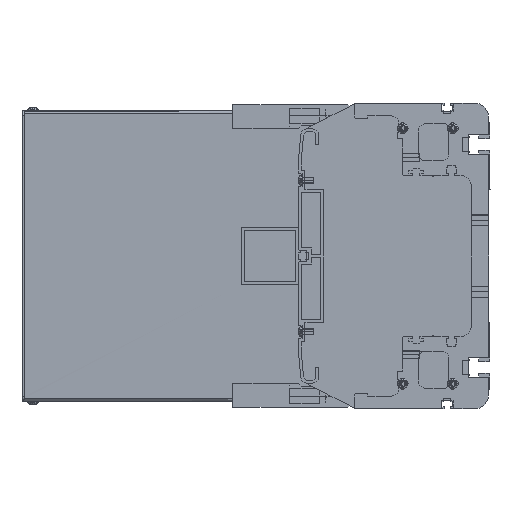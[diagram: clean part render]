
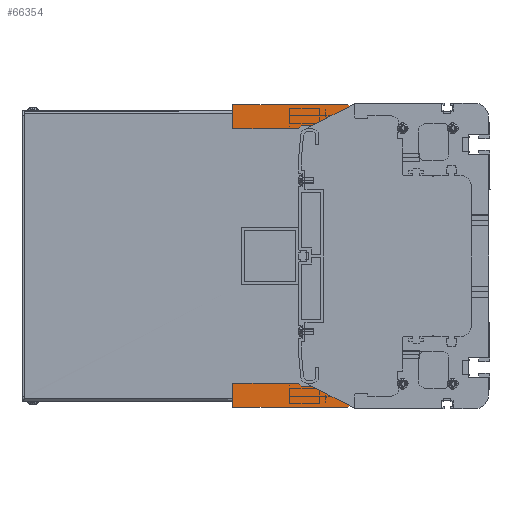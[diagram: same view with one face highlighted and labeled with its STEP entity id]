
A CAD part, left-side view. The second image highlights one B-rep face of the part: STEP entity #66354.
In plain terms, the highlighted planar face has unit normal (-1, 0, 0).
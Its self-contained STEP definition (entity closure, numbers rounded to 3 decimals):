
#61878=DIRECTION('',(0.,0.,1.));
#61879=VECTOR('',#61878,134.);
#61880=CARTESIAN_POINT('',(-434.5,111.,-67.));
#61881=LINE('',#61880,#61879);
#62143=DIRECTION('',(0.,1.,0.));
#62144=VECTOR('',#62143,46.);
#62145=CARTESIAN_POINT('',(-434.5,134.,-89.));
#62146=LINE('',#62145,#62144);
#62368=DIRECTION('',(0.,0.,1.));
#62369=VECTOR('',#62368,13.);
#62370=CARTESIAN_POINT('',(-434.5,114.5,-86.));
#62371=LINE('',#62370,#62369);
#62504=DIRECTION('',(0.,1.,0.));
#62505=VECTOR('',#62504,79.);
#62506=CARTESIAN_POINT('',(-434.5,101.,-106.));
#62507=LINE('',#62506,#62505);
#62508=DIRECTION('',(0.,-0.707,-0.707));
#62509=VECTOR('',#62508,2.828);
#62510=CARTESIAN_POINT('',(-434.5,134.,-89.));
#62511=LINE('',#62510,#62509);
#62512=CARTESIAN_POINT('',(-434.5,119.5,-86.));
#62513=DIRECTION('',(-1.,0.,0.));
#62514=DIRECTION('',(0.,0.,-1.));
#62515=AXIS2_PLACEMENT_3D('',#62512,#62513,#62514);
#62517=CARTESIAN_POINT('',(-434.5,119.5,86.));
#62518=DIRECTION('',(-1.,0.,0.));
#62519=DIRECTION('',(0.,-1.,0.));
#62520=AXIS2_PLACEMENT_3D('',#62517,#62518,#62519);
#62522=DIRECTION('',(0.,0.707,-0.707));
#62523=VECTOR('',#62522,2.828);
#62524=CARTESIAN_POINT('',(-434.5,132.,91.));
#62525=LINE('',#62524,#62523);
#62526=DIRECTION('',(0.,0.,-1.));
#62527=VECTOR('',#62526,17.);
#62528=CARTESIAN_POINT('',(-434.5,180.,106.));
#62529=LINE('',#62528,#62527);
#62530=DIRECTION('',(0.,-1.,0.));
#62531=VECTOR('',#62530,79.);
#62532=CARTESIAN_POINT('',(-434.5,180.,106.));
#62533=LINE('',#62532,#62531);
#62534=CARTESIAN_POINT('',(-434.5,101.,102.));
#62535=DIRECTION('',(1.,0.,0.));
#62536=DIRECTION('',(0.,0.,1.));
#62537=AXIS2_PLACEMENT_3D('',#62534,#62535,#62536);
#62539=CARTESIAN_POINT('',(-434.5,101.,-102.));
#62540=DIRECTION('',(1.,0.,0.));
#62541=DIRECTION('',(0.,-1.,0.));
#62542=AXIS2_PLACEMENT_3D('',#62539,#62540,#62541);
#62604=DIRECTION('',(0.,0.,1.));
#62605=VECTOR('',#62604,17.);
#62606=CARTESIAN_POINT('',(-434.5,180.,-106.));
#62607=LINE('',#62606,#62605);
#62800=DIRECTION('',(0.,0.,-1.));
#62801=VECTOR('',#62800,204.);
#62802=CARTESIAN_POINT('',(-434.5,97.,102.));
#62803=LINE('',#62802,#62801);
#63179=DIRECTION('',(0.,-1.,0.));
#63180=VECTOR('',#63179,46.);
#63181=CARTESIAN_POINT('',(-434.5,180.,89.));
#63182=LINE('',#63181,#63180);
#63230=DIRECTION('',(0.,1.,0.));
#63231=VECTOR('',#63230,12.5);
#63232=CARTESIAN_POINT('',(-434.5,119.5,91.));
#63233=LINE('',#63232,#63231);
#63300=DIRECTION('',(0.,0.,1.));
#63301=VECTOR('',#63300,13.);
#63302=CARTESIAN_POINT('',(-434.5,114.5,73.));
#63303=LINE('',#63302,#63301);
#63616=DIRECTION('',(0.,1.,0.));
#63617=VECTOR('',#63616,6.5);
#63618=CARTESIAN_POINT('',(-434.5,108.,73.));
#63619=LINE('',#63618,#63617);
#63624=DIRECTION('',(0.,0.,1.));
#63625=VECTOR('',#63624,6.);
#63626=CARTESIAN_POINT('',(-434.5,108.,67.));
#63627=LINE('',#63626,#63625);
#63632=DIRECTION('',(0.,-1.,0.));
#63633=VECTOR('',#63632,3.);
#63634=CARTESIAN_POINT('',(-434.5,111.,67.));
#63635=LINE('',#63634,#63633);
#64487=DIRECTION('',(0.,-1.,0.));
#64488=VECTOR('',#64487,12.5);
#64489=CARTESIAN_POINT('',(-434.5,132.,-91.));
#64490=LINE('',#64489,#64488);
#64491=DIRECTION('',(0.,-1.,0.));
#64492=VECTOR('',#64491,6.5);
#64493=CARTESIAN_POINT('',(-434.5,114.5,-73.));
#64494=LINE('',#64493,#64492);
#64503=DIRECTION('',(0.,0.,1.));
#64504=VECTOR('',#64503,6.);
#64505=CARTESIAN_POINT('',(-434.5,108.,-73.));
#64506=LINE('',#64505,#64504);
#64515=DIRECTION('',(0.,1.,0.));
#64516=VECTOR('',#64515,3.);
#64517=CARTESIAN_POINT('',(-434.5,108.,-67.));
#64518=LINE('',#64517,#64516);
#64803=CARTESIAN_POINT('',(-434.5,180.,106.));
#64805=VERTEX_POINT('',#64803);
#64809=CARTESIAN_POINT('',(-434.5,180.,89.));
#64810=VERTEX_POINT('',#64809);
#64824=CARTESIAN_POINT('',(-434.5,180.,-106.));
#64826=VERTEX_POINT('',#64824);
#64827=CARTESIAN_POINT('',(-434.5,180.,-89.));
#64828=VERTEX_POINT('',#64827);
#64843=CARTESIAN_POINT('',(-434.5,97.,102.));
#64844=CARTESIAN_POINT('',(-434.5,97.,-102.));
#64845=VERTEX_POINT('',#64843);
#64846=VERTEX_POINT('',#64844);
#64847=CARTESIAN_POINT('',(-434.5,101.,106.));
#64848=VERTEX_POINT('',#64847);
#64849=CARTESIAN_POINT('',(-434.5,132.,91.));
#64850=CARTESIAN_POINT('',(-434.5,134.,89.));
#64851=VERTEX_POINT('',#64849);
#64852=VERTEX_POINT('',#64850);
#64853=CARTESIAN_POINT('',(-434.5,119.5,91.));
#64854=VERTEX_POINT('',#64853);
#64855=CARTESIAN_POINT('',(-434.5,114.5,86.));
#64856=VERTEX_POINT('',#64855);
#64857=CARTESIAN_POINT('',(-434.5,114.5,73.));
#64858=VERTEX_POINT('',#64857);
#64859=CARTESIAN_POINT('',(-434.5,108.,73.));
#64860=VERTEX_POINT('',#64859);
#64861=CARTESIAN_POINT('',(-434.5,108.,67.));
#64862=VERTEX_POINT('',#64861);
#64863=CARTESIAN_POINT('',(-434.5,111.,67.));
#64864=VERTEX_POINT('',#64863);
#64865=CARTESIAN_POINT('',(-434.5,111.,-67.));
#64866=VERTEX_POINT('',#64865);
#64867=CARTESIAN_POINT('',(-434.5,108.,-67.));
#64868=VERTEX_POINT('',#64867);
#64869=CARTESIAN_POINT('',(-434.5,108.,-73.));
#64870=VERTEX_POINT('',#64869);
#64871=CARTESIAN_POINT('',(-434.5,114.5,-73.));
#64872=VERTEX_POINT('',#64871);
#64873=CARTESIAN_POINT('',(-434.5,114.5,-86.));
#64874=VERTEX_POINT('',#64873);
#64875=CARTESIAN_POINT('',(-434.5,119.5,-91.));
#64876=VERTEX_POINT('',#64875);
#64877=CARTESIAN_POINT('',(-434.5,132.,-91.));
#64878=VERTEX_POINT('',#64877);
#64879=CARTESIAN_POINT('',(-434.5,134.,-89.));
#64880=VERTEX_POINT('',#64879);
#64881=CARTESIAN_POINT('',(-434.5,101.,-106.));
#64882=VERTEX_POINT('',#64881);
#66303=CARTESIAN_POINT('',(-434.5,118.5,0.));
#66304=DIRECTION('',(1.,0.,0.));
#66305=DIRECTION('',(0.,0.,-1.));
#66306=AXIS2_PLACEMENT_3D('',#66303,#66304,#66305);
#66307=PLANE('',#66306);
#66309=ORIENTED_EDGE('',*,*,#66308,.T.);
#66311=ORIENTED_EDGE('',*,*,#66310,.T.);
#66312=ORIENTED_EDGE('',*,*,#65909,.F.);
#66314=ORIENTED_EDGE('',*,*,#66313,.T.);
#66316=ORIENTED_EDGE('',*,*,#66315,.T.);
#66317=ORIENTED_EDGE('',*,*,#66294,.T.);
#66318=ORIENTED_EDGE('',*,*,#66192,.T.);
#66320=ORIENTED_EDGE('',*,*,#66319,.T.);
#66322=ORIENTED_EDGE('',*,*,#66321,.T.);
#66324=ORIENTED_EDGE('',*,*,#66323,.T.);
#66325=ORIENTED_EDGE('',*,*,#65681,.T.);
#66327=ORIENTED_EDGE('',*,*,#66326,.T.);
#66329=ORIENTED_EDGE('',*,*,#66328,.T.);
#66331=ORIENTED_EDGE('',*,*,#66330,.T.);
#66333=ORIENTED_EDGE('',*,*,#66332,.T.);
#66335=ORIENTED_EDGE('',*,*,#66334,.T.);
#66337=ORIENTED_EDGE('',*,*,#66336,.T.);
#66339=ORIENTED_EDGE('',*,*,#66338,.T.);
#66341=ORIENTED_EDGE('',*,*,#66340,.F.);
#66343=ORIENTED_EDGE('',*,*,#66342,.F.);
#66345=ORIENTED_EDGE('',*,*,#66344,.T.);
#66347=ORIENTED_EDGE('',*,*,#66346,.T.);
#66349=ORIENTED_EDGE('',*,*,#66348,.T.);
#66351=ORIENTED_EDGE('',*,*,#66350,.T.);
#66352=EDGE_LOOP('',(#66309,#66311,#66312,#66314,#66316,#66317,#66318,#66320,
#66322,#66324,#66325,#66327,#66329,#66331,#66333,#66335,#66337,#66339,#66341,
#66343,#66345,#66347,#66349,#66351));
#66353=FACE_OUTER_BOUND('',#66352,.F.);
#66354=ADVANCED_FACE('',(#66353),#66307,.F.);
#62516=CIRCLE('',#62515,5.);
#62521=CIRCLE('',#62520,5.);
#62538=CIRCLE('',#62537,4.);
#62543=CIRCLE('',#62542,4.);
#65681=EDGE_CURVE('',#64866,#64864,#61881,.T.);
#65909=EDGE_CURVE('',#64880,#64828,#62146,.T.);
#66192=EDGE_CURVE('',#64874,#64872,#62371,.T.);
#66294=EDGE_CURVE('',#64876,#64874,#62516,.T.);
#66308=EDGE_CURVE('',#64882,#64826,#62507,.T.);
#66310=EDGE_CURVE('',#64826,#64828,#62607,.T.);
#66313=EDGE_CURVE('',#64880,#64878,#62511,.T.);
#66315=EDGE_CURVE('',#64878,#64876,#64490,.T.);
#66319=EDGE_CURVE('',#64872,#64870,#64494,.T.);
#66321=EDGE_CURVE('',#64870,#64868,#64506,.T.);
#66323=EDGE_CURVE('',#64868,#64866,#64518,.T.);
#66326=EDGE_CURVE('',#64864,#64862,#63635,.T.);
#66328=EDGE_CURVE('',#64862,#64860,#63627,.T.);
#66330=EDGE_CURVE('',#64860,#64858,#63619,.T.);
#66332=EDGE_CURVE('',#64858,#64856,#63303,.T.);
#66334=EDGE_CURVE('',#64856,#64854,#62521,.T.);
#66336=EDGE_CURVE('',#64854,#64851,#63233,.T.);
#66338=EDGE_CURVE('',#64851,#64852,#62525,.T.);
#66340=EDGE_CURVE('',#64810,#64852,#63182,.T.);
#66342=EDGE_CURVE('',#64805,#64810,#62529,.T.);
#66344=EDGE_CURVE('',#64805,#64848,#62533,.T.);
#66346=EDGE_CURVE('',#64848,#64845,#62538,.T.);
#66348=EDGE_CURVE('',#64845,#64846,#62803,.T.);
#66350=EDGE_CURVE('',#64846,#64882,#62543,.T.);
